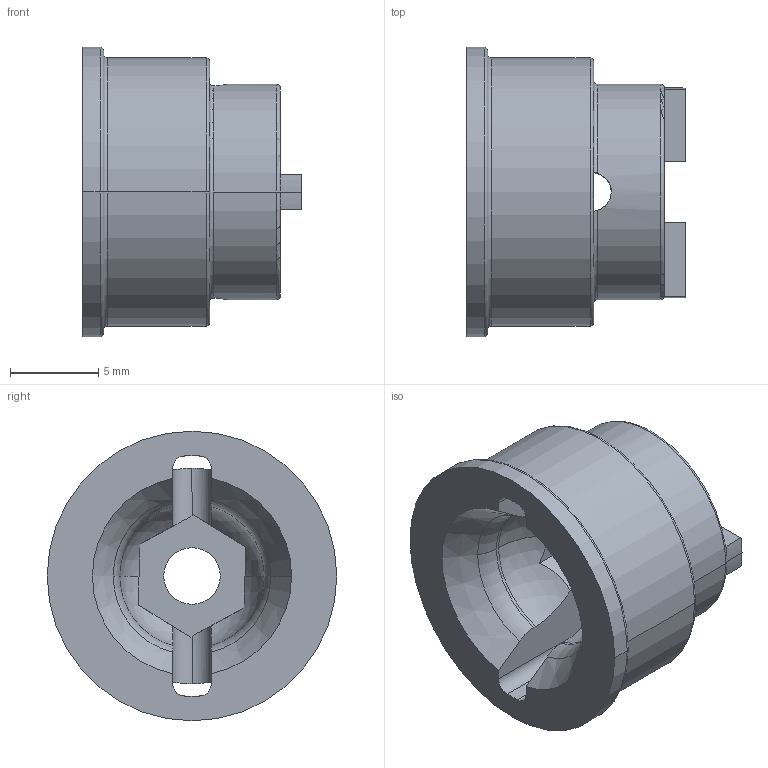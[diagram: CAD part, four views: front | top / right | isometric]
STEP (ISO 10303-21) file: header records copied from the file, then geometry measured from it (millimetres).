
FILE_DESCRIPTION (( 'STEP AP214' ), '1' );
FILE_NAME ('×àøêà çàäíÿÿ 2.0.STEP', '2019-03-21T14:00:13', ( '' ), ( '' ), 'SwSTEP 2.0', 'SolidWorks 2018', '' );
FILE_SCHEMA (( 'AUTOMOTIVE_DESIGN' ));
Length unit declared in the file: millimetre
Products named in the file (1): ×àøêà çàäíÿÿ 2.0
Bounding box: 12.4 x 16.4 x 16.4 mm (x, y, z)
Volume: 1265.3 mm3; surface area: 1197.1 mm2
Topology: 1 solids, 1 shells, 74 faces, 201 edges, 128 vertices
Faces by surface type: cylinder 25, plane 24, torus 18, sphere 4, cone 3
Entity records: 2454 total; most frequent: CARTESIAN_POINT 518, DIRECTION 420, ORIENTED_EDGE 402, EDGE_CURVE 201, AXIS2_PLACEMENT_3D 174, VERTEX_POINT 128, CIRCLE 99, EDGE_LOOP 79
